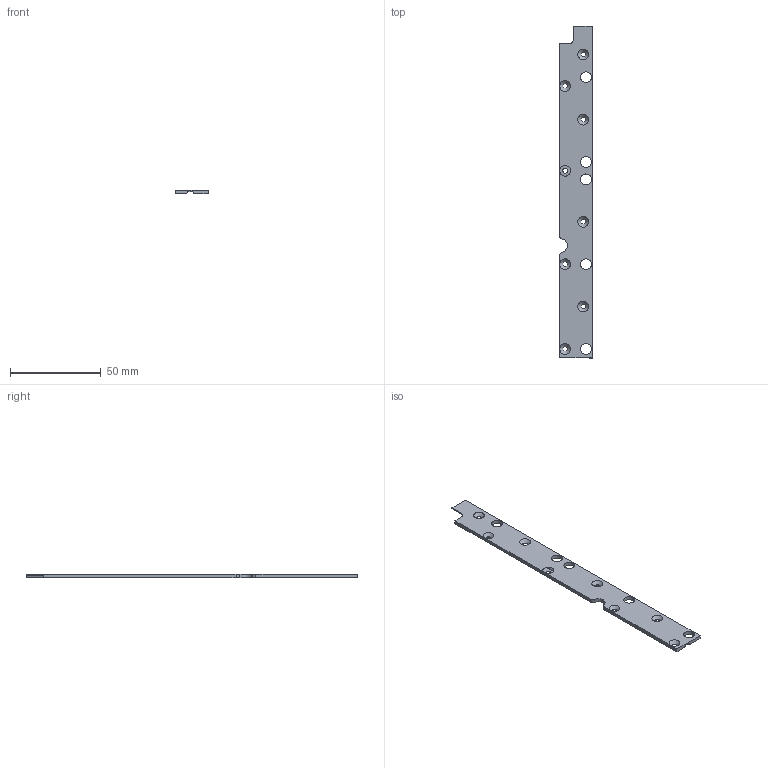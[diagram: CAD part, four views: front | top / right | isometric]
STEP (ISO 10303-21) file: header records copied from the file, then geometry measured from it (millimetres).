
FILE_DESCRIPTION(/* description */ (''),/* implementation_level */ '2;1');
FILE_NAME(/* name */ 'LAMINA#4specular.stp',/* time_stamp */ '2023-05-18T12:49:38+02:00',/* author */ (''),/* organization */ (''),/* preprocessor_version */ 'ST-DEVELOPER v18.102',/* originating_system */ 'SIEMENS PLM Software NX 2000',/* authorisation */ '');
FILE_SCHEMA (('AP203_CONFIGURATION_CONTROLLED_3D_DESIGN_OF_MECHANICAL_PARTS_AND_ASSEMBLIES_MIM_LF { 1 0 10303 403 2 1 2}'));
Length unit declared in the file: millimetre
Products named in the file (1): turc23EC399Budg4
Bounding box: 18 x 183.3 x 2 mm (x, y, z)
Volume: 5160.6 mm3; surface area: 7395.1 mm2
Topology: 1 solids, 1 shells, 40 faces, 126 edges, 84 vertices
Faces by surface type: cylinder 19, plane 13, cone 8
Full cylindrical faces by diameter (mm): 2.7 x8, 6 x5
Entity records: 1586 total; most frequent: DIRECTION 269, CARTESIAN_POINT 269, ORIENTED_EDGE 252, EDGE_CURVE 126, AXIS2_PLACEMENT_3D 103, VERTEX_POINT 84, LINE 63, VECTOR 63
